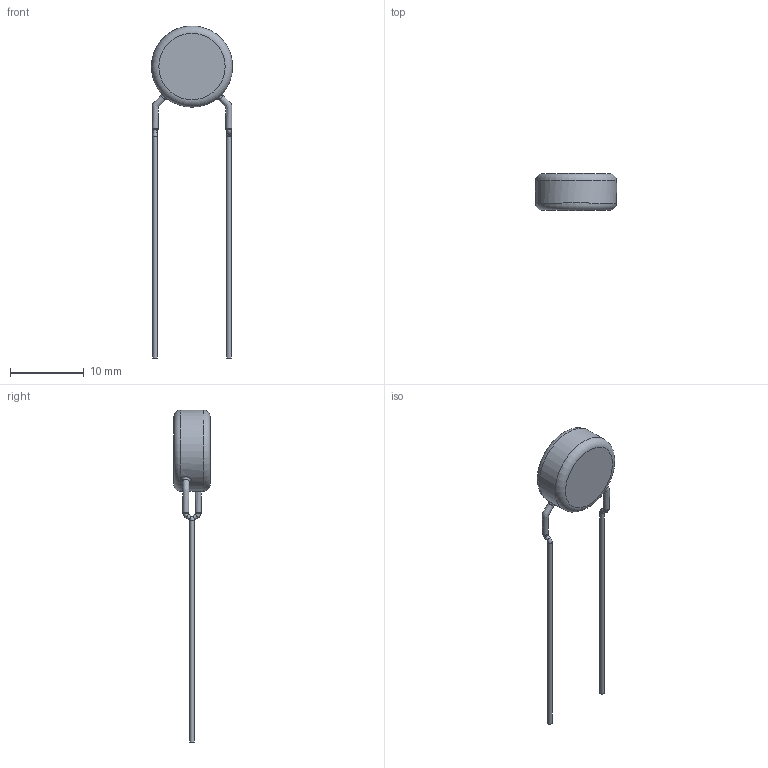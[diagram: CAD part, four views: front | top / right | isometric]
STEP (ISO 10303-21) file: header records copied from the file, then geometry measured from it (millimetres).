
FILE_DESCRIPTION(/* description */ (''),/* implementation_level */ '2;1');
FILE_NAME(/* name */ 'I:\Marketing\M6t1\3D-Models\Zchng-Werk-3\Upload for homepage\BCC\AY2\Inline Dia 0,6 LS 10\AY2332K41Y5US63V0.stp',/* time_stamp */ '2020-11-06T08:58:40+01:00',/* author */ ('truediger'),/* organization */ (''),/* preprocessor_version */ 'ST-DEVELOPER v18',/* originating_system */ 'Autodesk Inventor 2020',/* authorisation */ '');
FILE_SCHEMA (('AUTOMOTIVE_DESIGN { 1 0 10303 214 3 1 1 }'));
Length unit declared in the file: millimetre
Products named in the file (1): Bauteil1
Bounding box: 11 x 5 x 45 mm (x, y, z)
Volume: 484.3 mm3; surface area: 476.2 mm2
Topology: 1 solids, 1 shells, 29 faces, 73 edges, 48 vertices
Faces by surface type: cylinder 9, bspline 8, torus 6, plane 6
Full cylindrical faces by diameter (mm): 0.6 x4, 11 x1
Entity records: 2200 total; most frequent: CARTESIAN_POINT 1459, ORIENTED_EDGE 146, DIRECTION 141, EDGE_CURVE 73, AXIS2_PLACEMENT_3D 68, VERTEX_POINT 48, CIRCLE 44, EDGE_LOOP 31
